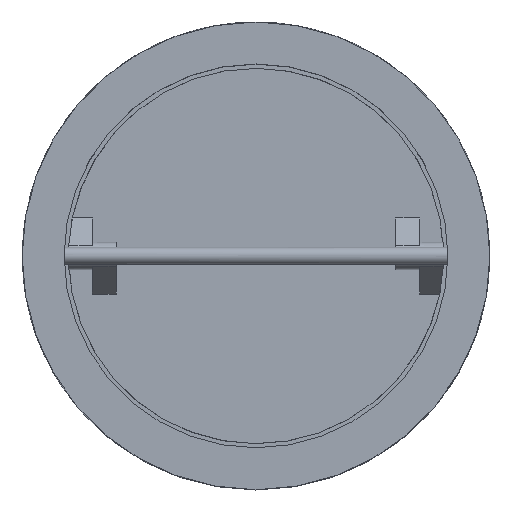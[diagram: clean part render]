
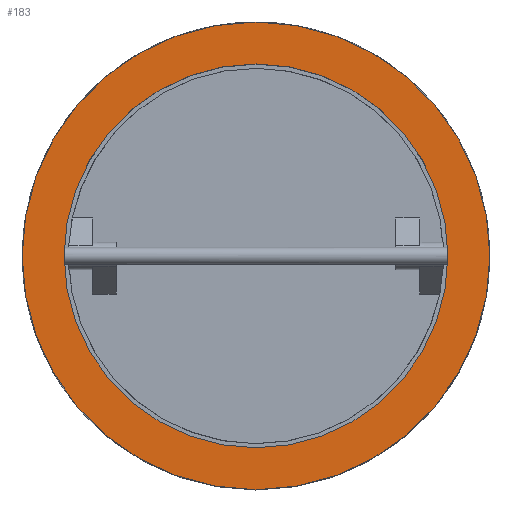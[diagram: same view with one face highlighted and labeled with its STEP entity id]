
A CAD part, top view. The second image highlights one B-rep face of the part: STEP entity #183.
In plain terms, the highlighted planar face has unit normal (0, 0, 1).
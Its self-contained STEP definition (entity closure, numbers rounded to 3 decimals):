
#183=ADVANCED_FACE('',(#838,#840),#842,.T.);
#838=FACE_BOUND('',#839,.T.);
#839=EDGE_LOOP('',(#1368));
#840=FACE_BOUND('',#841,.T.);
#841=EDGE_LOOP('',(#1369));
#842=PLANE('',#843);
#843=AXIS2_PLACEMENT_3D('',#844,#845,#846);
#844=CARTESIAN_POINT('',(0.,0.,89.));
#845=DIRECTION('',(0.,0.,1.));
#846=DIRECTION('',(0.,-1.,0.));
#1368=ORIENTED_EDGE('',*,*,#1729,.T.);
#1369=ORIENTED_EDGE('',*,*,#1736,.F.);
#1729=EDGE_CURVE('',#1955,#1955,#1956,.T.);
#1736=EDGE_CURVE('',#1969,#1969,#1970,.T.);
#1955=VERTEX_POINT('',#2376);
#1956=CIRCLE('',#2377,136.5);
#1969=VERTEX_POINT('',#2409);
#1970=CIRCLE('',#2410,112.);
#2376=CARTESIAN_POINT('',(0.,-136.5,89.));
#2377=AXIS2_PLACEMENT_3D('',#2378,#2379,#2380);
#2378=CARTESIAN_POINT('',(0.,0.,89.));
#2379=DIRECTION('',(0.,0.,1.));
#2380=DIRECTION('',(0.,-1.,0.));
#2409=CARTESIAN_POINT('',(0.,-112.,89.));
#2410=AXIS2_PLACEMENT_3D('',#2411,#2412,#2413);
#2411=CARTESIAN_POINT('',(0.,0.,89.));
#2412=DIRECTION('',(0.,0.,1.));
#2413=DIRECTION('',(0.,-1.,0.));
